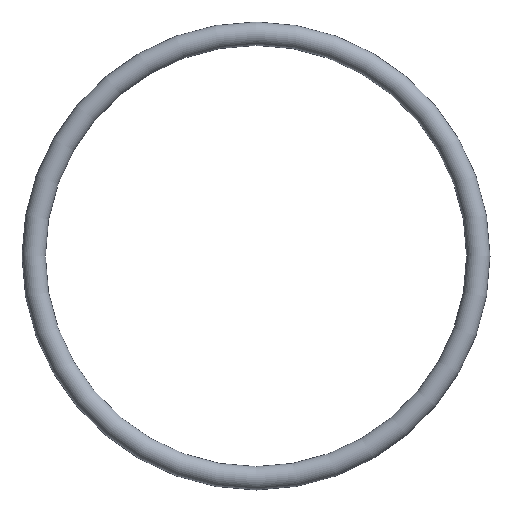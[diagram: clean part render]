
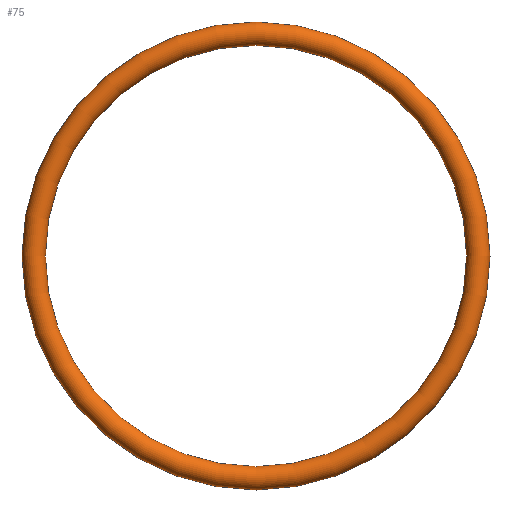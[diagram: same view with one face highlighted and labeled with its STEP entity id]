
A CAD part, front view. The second image highlights one B-rep face of the part: STEP entity #75.
In plain terms, the highlighted toroidal (fillet/blend) face has major radius 28.5 mm and minor radius 1.5 mm.
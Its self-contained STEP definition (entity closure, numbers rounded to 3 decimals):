
#75 = ADVANCED_FACE( '', ( #77 ), #78, .T. );
#77 = FACE_BOUND( '', #79, .T. );
#78 = TOROIDAL_SURFACE( '', #80, 28.5, 1.5 );
#79 = VERTEX_LOOP( '', #81 );
#80 = AXIS2_PLACEMENT_3D( '', #82, #83, #84 );
#81 = VERTEX_POINT( '', #85 );
#82 = CARTESIAN_POINT( '', ( 0., 0., 0. ) );
#83 = DIRECTION( '', ( 0., -1., 0. ) );
#84 = DIRECTION( '', ( 0., 0., -1. ) );
#85 = CARTESIAN_POINT( '', ( 0., 0., -30. ) );
